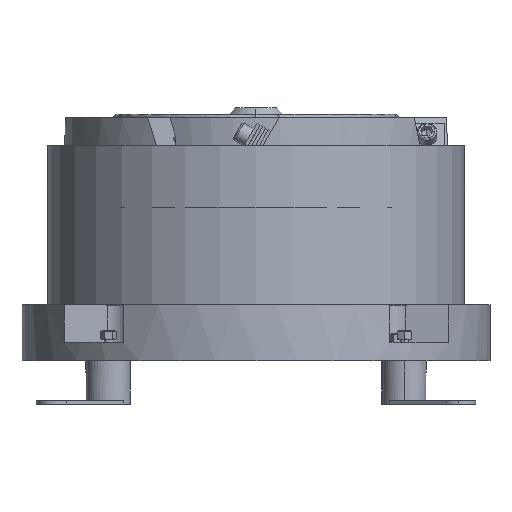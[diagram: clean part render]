
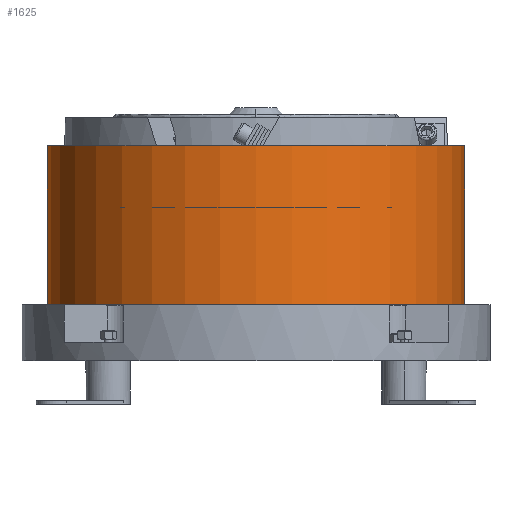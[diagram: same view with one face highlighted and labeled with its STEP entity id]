
A CAD part, front view. The second image highlights one B-rep face of the part: STEP entity #1625.
In plain terms, the highlighted cylindrical face has radius 193 mm (diameter 386 mm), a partial arc.
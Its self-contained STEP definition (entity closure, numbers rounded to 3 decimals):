
#730=CYLINDRICAL_SURFACE('',#11694,193.);
#1024=FACE_OUTER_BOUND('',#4490,.T.);
#1625=ADVANCED_FACE('NONE',(#1024),#730,.T.);
#2664=LINE('',#16875,#3478);
#2665=LINE('',#16876,#3479);
#3478=VECTOR('',#13391,1.);
#3479=VECTOR('',#13392,1.);
#4490=EDGE_LOOP('',(#5719,#5720,#5721,#5722));
#5719=ORIENTED_EDGE('',*,*,#9577,.F.);
#5720=ORIENTED_EDGE('',*,*,#9576,.T.);
#5721=ORIENTED_EDGE('',*,*,#9578,.T.);
#5722=ORIENTED_EDGE('',*,*,#9572,.T.);
#8450=VERTEX_POINT('',#16865);
#8451=VERTEX_POINT('',#16866);
#8452=VERTEX_POINT('',#16871);
#8453=VERTEX_POINT('',#16872);
#9572=EDGE_CURVE('NONE',#8450,#8451,#10934,.T.);
#9576=EDGE_CURVE('NONE',#8453,#8452,#10938,.T.);
#9577=EDGE_CURVE('NONE',#8453,#8451,#2664,.T.);
#9578=EDGE_CURVE('NONE',#8452,#8450,#2665,.T.);
#10934=CIRCLE('',#11687,193.);
#10938=CIRCLE('',#11692,193.);
#11687=AXIS2_PLACEMENT_3D('',#16864,#13377,#13378);
#11692=AXIS2_PLACEMENT_3D('',#16873,#13387,#13388);
#11694=AXIS2_PLACEMENT_3D('',#16877,#13393,#13394);
#13377=DIRECTION('',(0.,0.,-1.));
#13378=DIRECTION('',(1.,0.,0.));
#13387=DIRECTION('',(0.,0.,1.));
#13388=DIRECTION('',(1.,0.,0.));
#13391=DIRECTION('',(0.,0.,1.));
#13392=DIRECTION('',(0.,0.,1.));
#13393=DIRECTION('',(0.,0.,1.));
#13394=DIRECTION('',(1.,0.,0.));
#16864=CARTESIAN_POINT('',(-101.238,-3.67,83.));
#16865=CARTESIAN_POINT('',(91.762,-3.67,83.));
#16866=CARTESIAN_POINT('',(-294.238,-3.67,83.));
#16871=CARTESIAN_POINT('',(91.762,-3.67,-64.));
#16872=CARTESIAN_POINT('',(-294.238,-3.67,-64.));
#16873=CARTESIAN_POINT('',(-101.238,-3.67,-64.));
#16875=CARTESIAN_POINT('',(-294.238,-3.67,-64.));
#16876=CARTESIAN_POINT('',(91.762,-3.67,-64.));
#16877=CARTESIAN_POINT('',(-101.238,-3.67,-64.));
